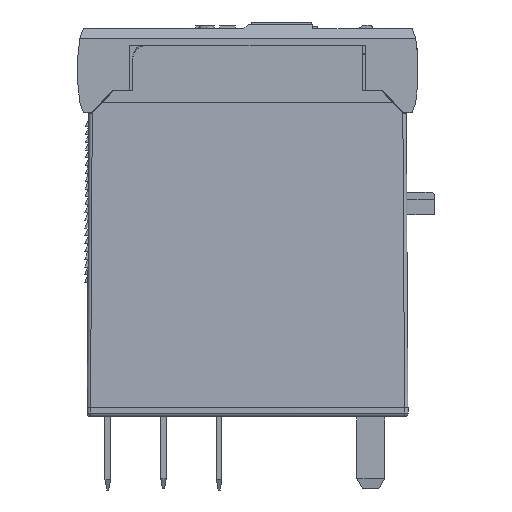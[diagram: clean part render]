
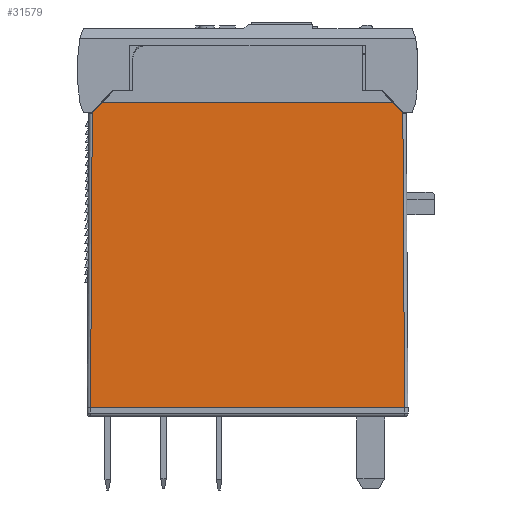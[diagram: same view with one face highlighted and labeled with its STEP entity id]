
A CAD part, left-side view. The second image highlights one B-rep face of the part: STEP entity #31579.
In plain terms, the highlighted planar face has unit normal (-1, 0, 0.006).
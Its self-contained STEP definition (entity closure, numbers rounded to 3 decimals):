
#95 = ORIENTED_EDGE ( 'NONE', *, *, #7765, .T. ) ;
#3595 = CARTESIAN_POINT ( 'NONE',  ( 0.16, 30.708, 33.795 ) ) ;
#3762 = VERTEX_POINT ( 'NONE', #26701 ) ;
#3952 = VECTOR ( 'NONE', #13597, 1000. ) ;
#4029 = CARTESIAN_POINT ( 'NONE',  ( 0.165, 29.803, 34.7 ) ) ;
#4521 = DIRECTION ( 'NONE',  ( 0.006, -0.006, 1. ) ) ;
#4870 = EDGE_CURVE ( 'NONE', #3762, #17251, #28545, .T. ) ;
#5322 = CARTESIAN_POINT ( 'NONE',  ( 0.16, 2.836, 33.795 ) ) ;
#5345 = PLANE ( 'NONE',  #26005 ) ;
#5992 = EDGE_CURVE ( 'NONE', #24046, #17251, #11502, .T. ) ;
#6656 = VERTEX_POINT ( 'NONE', #3595 ) ;
#6990 = EDGE_CURVE ( 'NONE', #9371, #6656, #16321, .T. ) ;
#7072 = DIRECTION ( 'NONE',  ( -0.004, 0.707, -0.707 ) ) ;
#7590 = VERTEX_POINT ( 'NONE', #19902 ) ;
#7752 = CARTESIAN_POINT ( 'NONE',  ( 0.096, 16.772, 22.786 ) ) ;
#7765 = EDGE_CURVE ( 'NONE', #24046, #7590, #14605, .T. ) ;
#8346 = CARTESIAN_POINT ( 'NONE',  ( 0.165, 16.772, 34.7 ) ) ;
#9246 = CARTESIAN_POINT ( 'NONE',  ( 0.006, 2.368, 7.3 ) ) ;
#9371 = VERTEX_POINT ( 'NONE', #12868 ) ;
#9653 = LINE ( 'NONE', #29120, #15849 ) ;
#9826 = ORIENTED_EDGE ( 'NONE', *, *, #5992, .F. ) ;
#10185 = VECTOR ( 'NONE', #7072, 1000. ) ;
#11054 = DIRECTION ( 'NONE',  ( 0., -1., 0. ) ) ;
#11502 = LINE ( 'NONE', #30819, #3952 ) ;
#12721 = DIRECTION ( 'NONE',  ( 1., 0., -0.006 ) ) ;
#12868 = CARTESIAN_POINT ( 'NONE',  ( 0.165, 29.803, 34.7 ) ) ;
#13321 = VECTOR ( 'NONE', #11054, 1000. ) ;
#13597 = DIRECTION ( 'NONE',  ( -0.006, -0.006, -1. ) ) ;
#14081 = ORIENTED_EDGE ( 'NONE', *, *, #19095, .F. ) ;
#14605 = LINE ( 'NONE', #5322, #18946 ) ;
#14759 = DIRECTION ( 'NONE',  ( 0.004, 0.707, 0.707 ) ) ;
#15271 = ORIENTED_EDGE ( 'NONE', *, *, #18887, .F. ) ;
#15592 = EDGE_LOOP ( 'NONE', ( #9826, #95, #14081, #31328, #15271, #29580 ) ) ;
#15849 = VECTOR ( 'NONE', #4521, 1000. ) ;
#16321 = LINE ( 'NONE', #4029, #10185 ) ;
#16409 = DIRECTION ( 'NONE',  ( 0., -1., 0. ) ) ;
#17251 = VERTEX_POINT ( 'NONE', #19446 ) ;
#18887 = EDGE_CURVE ( 'NONE', #3762, #6656, #9653, .T. ) ;
#18946 = VECTOR ( 'NONE', #14759, 1000. ) ;
#19095 = EDGE_CURVE ( 'NONE', #9371, #7590, #20795, .T. ) ;
#19114 = CARTESIAN_POINT ( 'NONE',  ( 0.16, 2.836, 33.795 ) ) ;
#19446 = CARTESIAN_POINT ( 'NONE',  ( 0.006, 2.683, 7.3 ) ) ;
#19886 = FACE_OUTER_BOUND ( 'NONE', #15592, .T. ) ;
#19902 = CARTESIAN_POINT ( 'NONE',  ( 0.165, 3.742, 34.7 ) ) ;
#20795 = LINE ( 'NONE', #8346, #13321 ) ;
#22448 = DIRECTION ( 'NONE',  ( -0.006, 0., -1. ) ) ;
#24046 = VERTEX_POINT ( 'NONE', #19114 ) ;
#26005 = AXIS2_PLACEMENT_3D ( 'NONE', #7752, #12721, #22448 ) ;
#26701 = CARTESIAN_POINT ( 'NONE',  ( 0.006, 30.862, 7.3 ) ) ;
#28545 = LINE ( 'NONE', #9246, #29882 ) ;
#29120 = CARTESIAN_POINT ( 'NONE',  ( 0.006, 30.862, 7.3 ) ) ;
#29580 = ORIENTED_EDGE ( 'NONE', *, *, #4870, .T. ) ;
#29882 = VECTOR ( 'NONE', #16409, 1000. ) ;
#30819 = CARTESIAN_POINT ( 'NONE',  ( 0.16, 2.836, 33.795 ) ) ;
#31328 = ORIENTED_EDGE ( 'NONE', *, *, #6990, .T. ) ;
#31579 = ADVANCED_FACE ( 'NONE', ( #19886 ), #5345, .F. ) ;
